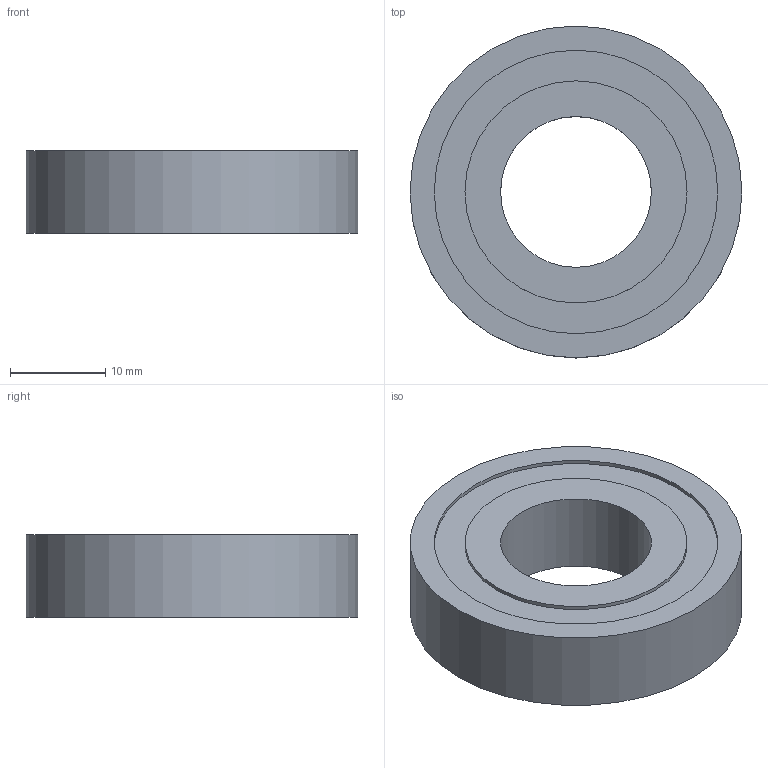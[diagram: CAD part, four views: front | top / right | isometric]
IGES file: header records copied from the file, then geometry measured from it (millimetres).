
Global section: file name: No Iges File Name specified; native system: AutoDesk Inventor R6.0; preprocessor: AutoDesk Inventor Iges Exporter R6.0; author: No Author specified; organization: No Organization specified; date: 20080103.215002; units: inch
Bounding box: 34.92 x 34.92 x 8.67 mm (x, y, z)
Surface area: 3036.6 mm2 (no closed solid volume)
Topology: 0 solids, 0 shells, 12 faces, 30 edges, 24 vertices
Faces by surface type: revolution 6, plane 6
